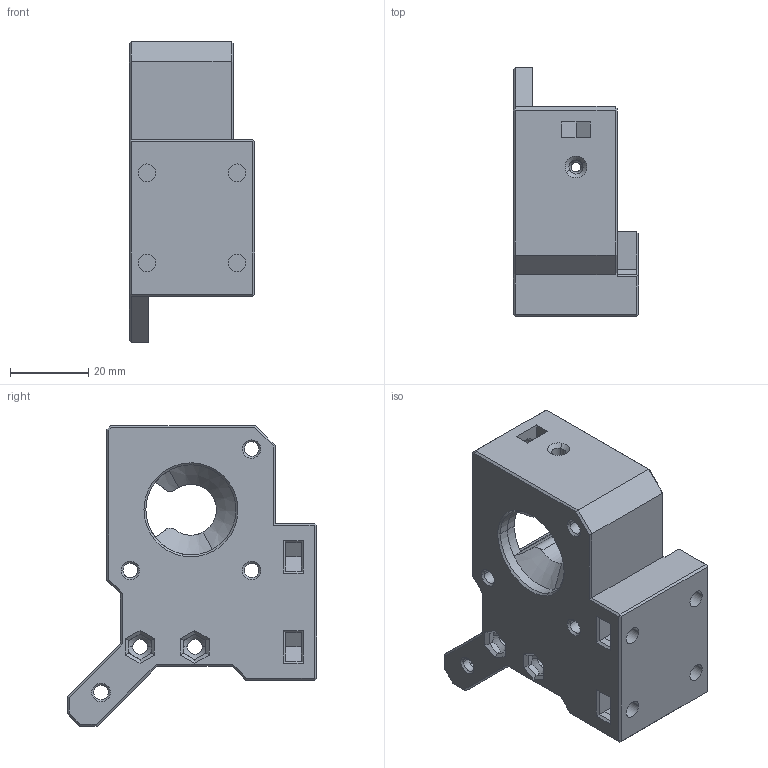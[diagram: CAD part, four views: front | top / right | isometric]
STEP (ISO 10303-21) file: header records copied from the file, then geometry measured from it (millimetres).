
FILE_DESCRIPTION(('CATIA V5 STEP Exchange'),'2;1');
FILE_NAME('D:\_이전 노트북\Cremaker모델링\Cremaker_profile-Metal(5차)-(Final)\direct-main-body-profile.stp','2020-10-23T05:19:44+00:00',('none'),('none'),'CATIA Version 5 Release 20 GA (IN-10)','CATIA V5 STEP AP203','none');
FILE_SCHEMA(('CONFIG_CONTROL_DESIGN'));
Length unit declared in the file: millimetre
Products named in the file (1): direct-main-body-profile
Bounding box: 32 x 63.77 x 76.81 mm (x, y, z)
Volume: 58161.4 mm3; surface area: 15835.6 mm2
Topology: 1 solids, 1 shells, 273 faces, 700 edges, 434 vertices
Faces by surface type: plane 192, cylinder 47, cone 34
Entity records: 7756 total; most frequent: CARTESIAN_POINT 1602, ORIENTED_EDGE 1400, DIRECTION 993, EDGE_CURVE 700, VECTOR 467, LINE 467, VERTEX_POINT 434, AXIS2_PLACEMENT_3D 326
